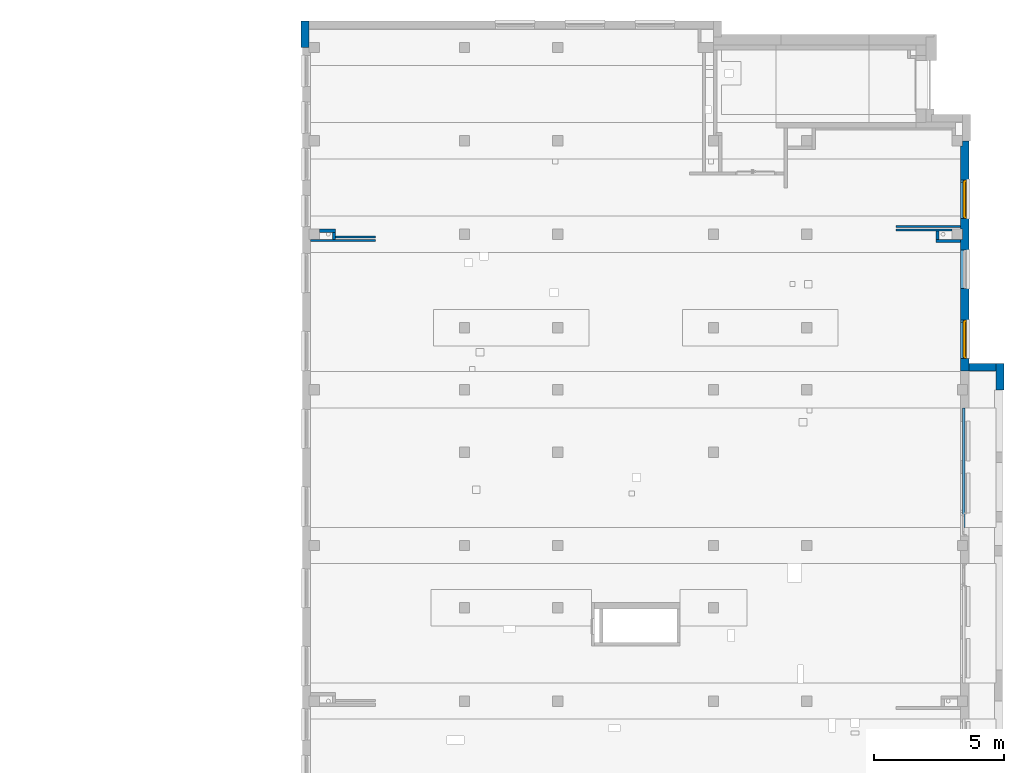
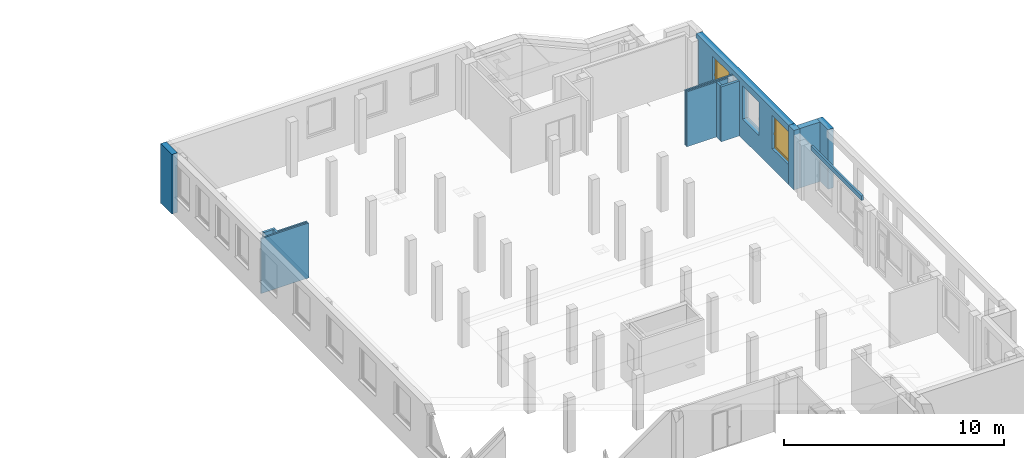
# One storey, part 9 of 27: 14 walls, 2 windows, 3 openings.
"""IFC4 building model written with IfcOpenShell, lengths in metres."""

from ifc_helpers import new_model, entity, si_unit, converted_unit, derived_unit, frame, frame_2d, origin, origin_with_axes, place, context, subcontext, project, spatial, polyline, rectangle, outline, extrude, clip, bounded_halfspace, closed_shell, open_shell, surface_model, source, transform, mapped, material, layer, layer_set, layer_usage, element, fill, save


model = new_model("IFC4")

# Units and contexts
model_context = context("Model", 3, precision=1e-05, world=origin())
body_context = subcontext(model_context, "Body", "Model", "MODEL_VIEW")
ifc_project = project(units=[si_unit("LENGTHUNIT", "METRE"), si_unit("AREAUNIT", "SQUARE_METRE"), si_unit("VOLUMEUNIT", "CUBIC_METRE"), si_unit("MASSUNIT", "GRAM", prefix="KILO"), converted_unit("PLANEANGLEUNIT", "DEGREE", entity("IfcPlaneAngleMeasure", 0.0174532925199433), si_unit("PLANEANGLEUNIT", "RADIAN"), dimensions=[0, 0, 0, 0, 0, 0, 0]), derived_unit("THERMALTRANSMITTANCEUNIT", [(si_unit("POWERUNIT", "WATT"), 1), (si_unit("THERMODYNAMICTEMPERATUREUNIT", "KELVIN"), -1), (si_unit("LENGTHUNIT", "METRE"), -2)]), derived_unit("VOLUMETRICFLOWRATEUNIT", [(si_unit("LENGTHUNIT", "METRE"), 3), (converted_unit("TIMEUNIT", "hour", entity("IfcTimeMeasure", 3600.0), si_unit("TIMEUNIT", "SECOND"), dimensions=[0, 0, 1, 0, 0, 0, 0]), -1), (si_unit("LENGTHUNIT", "METRE"), -1)])], contexts=[model_context])

# Site, building, storey
site_placement = place(None, origin())
site = spatial("IfcSite", under=ifc_project, at=site_placement, Name="3. ASŘ", CompositionType="ELEMENT")
building_placement = place(site_placement, origin())
building = spatial("IfcBuilding", under=site, at=building_placement, Name="Pavilon C", CompositionType="ELEMENT")
storey_placement = place(building_placement, frame((0.0, 0.0, 10.5)))
storey = spatial("IfcBuildingStorey", under=building, at=storey_placement, Name="Půdorys 4.NP", CompositionType="ELEMENT", Elevation=10.5)

# Wall, openings, windows
ifc_material_1 = material(Name="ZELEZOBETONOVÁ KCE")
ifc_layer_1 = layer(ifc_material_1, 0.32)
ifc_layer_set_1 = layer_set([ifc_layer_1])
ifc_layer_usage_1 = layer_usage(ifc_layer_set_1, "AXIS2", "POSITIVE", 0.0)
wall_1_placement = place(storey_placement, frame((50.2, 20.4, -0.1), z_axis=(0.0, 0.0, 1.0), x_axis=(0.0, 1.0, 0.0)))
wall_1 = element("IfcWall", 1, at=wall_1_placement, inside=storey, material=ifc_layer_usage_1, Name="ZELEZOBETONOVÁ KCE", context=body_context, shape_type="Clipping", body=[
    clip(clip(extrude(rectangle(XDim=8.4, YDim=0.32, at=frame_2d((4.2, 0.16), x_axis=(1.0, 0.0))), origin_with_axes(), (0.0, 0.0, 1.0), 3.3), bounded_halfspace(frame((8.3, 0.285, 3.05), z_axis=(0.0, 0.0, 1.0), x_axis=(0.0, 1.0, 0.0)), True, origin_with_axes(), polyline([(8.4, 0.25), (8.4, 0.32), (8.2, 0.32), (8.2, 0.25), (8.4, 0.25)]))), bounded_halfspace(frame((4.80000000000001, 0.285, 3.05), z_axis=(0.0, 0.0, 1.0), x_axis=(0.0, 1.0, 0.0)), True, origin_with_axes(), polyline([(5.00000000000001, 0.25), (5.00000000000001, 0.32), (4.60000000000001, 0.32), (4.60000000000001, 0.25), (5.00000000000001, 0.25)]))),
])
opening_1_placement = place(wall_1_placement, frame((0.0, 0.0, 1.1), z_axis=(0.0, 1.0, 0.0), x_axis=(0.0, 0.0, 1.0)))
opening_1 = element("IfcOpeningElement", 2, at=opening_1_placement, cuts=wall_1, Name="Okenní otvor", ObjectType="Opening", context=body_context, shape_type="SweptSolid", body=[
    extrude(outline(polyline([(0.0, 1.5), (1.85, 1.5), (1.85, 0.0), (0.0, 0.0), (0.0, 1.5)])), origin_with_axes(), (0.0, 0.0, 1.0), 0.32),
])
opening_2_placement = place(wall_1_placement, frame((2.69999999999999, 0.0, 1.1), z_axis=(0.0, 1.0, 0.0), x_axis=(0.0, 0.0, 1.0)))
element("IfcOpeningElement", 3, at=opening_2_placement, cuts=wall_1, Name="Okenní otvor", ObjectType="Opening", context=body_context, shape_type="SweptSolid", body=[
    extrude(outline(polyline([(0.0, 1.5), (1.85, 1.5), (1.85, 0.0), (0.0, 0.0), (0.0, 1.5)])), origin_with_axes(), (0.0, 0.0, 1.0), 0.32),
])
opening_3_placement = place(wall_1_placement, frame((5.39999999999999, 0.0, 1.1), z_axis=(0.0, 1.0, 0.0), x_axis=(0.0, 0.0, 1.0)))
opening_3 = element("IfcOpeningElement", 4, at=opening_3_placement, cuts=wall_1, Name="Okenní otvor", ObjectType="Opening", context=body_context, shape_type="SweptSolid", body=[
    extrude(outline(polyline([(0.0, 1.5), (1.85, 1.5), (1.85, 0.0), (0.0, 0.0), (0.0, 1.5)])), origin_with_axes(), (0.0, 0.0, 1.0), 0.32),
])
shared_shape = source(origin_with_axes(), body_context, "Body", "SurfaceModel", [
    surface_model("IfcShellBasedSurfaceModel", [(0.0, 0.182, 1.85), (0.0, 0.182, -5.63337527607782e-18), (0.08, 0.182, -5.63337527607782e-18), (0.08, 0.182, 1.85), (0.0, 0.0899999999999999, 5.63337527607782e-18), (0.0, 0.0900000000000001, 1.85), (0.08, 0.0900000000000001, 1.85), (0.08, 0.0899999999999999, 5.63337527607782e-18)], [closed_shell([[[0, 1, 2, 3]], [[4, 5, 6, 7]], [[1, 0, 5, 4]], [[2, 1, 4, 7]], [[3, 2, 7, 6]], [[0, 3, 6, 5]]], orient=[[False], [False], [False], [False], [False], [False]])]),
    surface_model("IfcShellBasedSurfaceModel", [(1.42, 0.182, 1.85), (1.42, 0.182, -5.63337527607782e-18), (1.5, 0.182, -5.63337527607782e-18), (1.5, 0.182, 1.85), (1.42, 0.0899999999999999, 5.63337527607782e-18), (1.42, 0.0900000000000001, 1.85), (1.5, 0.0900000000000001, 1.85), (1.5, 0.0899999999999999, 5.63337527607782e-18)], [closed_shell([[[0, 1, 2, 3]], [[4, 5, 6, 7]], [[1, 0, 5, 4]], [[2, 1, 4, 7]], [[3, 2, 7, 6]], [[0, 3, 6, 5]]], orient=[[False], [False], [False], [False], [False], [False]])]),
    surface_model("IfcShellBasedSurfaceModel", [(0.08, 0.182, 0.08), (0.08, 0.182, -5.63337527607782e-18), (1.42, 0.182, -5.63337527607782e-18), (1.42, 0.182, 0.08), (0.08, 0.0899999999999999, 5.63337527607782e-18), (0.08, 0.0899999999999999, 0.08), (1.42, 0.0899999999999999, 0.08), (1.42, 0.0899999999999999, 5.63337527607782e-18)], [closed_shell([[[0, 1, 2, 3]], [[4, 5, 6, 7]], [[1, 0, 5, 4]], [[2, 1, 4, 7]], [[3, 2, 7, 6]], [[0, 3, 6, 5]]], orient=[[False], [False], [False], [False], [False], [False]])]),
    surface_model("IfcShellBasedSurfaceModel", [(0.08, 0.182, 1.85), (0.08, 0.182, 1.77), (1.42, 0.182, 1.77), (1.42, 0.182, 1.85), (0.08, 0.0900000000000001, 1.77), (0.08, 0.0900000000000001, 1.85), (1.42, 0.0900000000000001, 1.85), (1.42, 0.0900000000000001, 1.77)], [closed_shell([[[0, 1, 2, 3]], [[4, 5, 6, 7]], [[1, 0, 5, 4]], [[2, 1, 4, 7]], [[3, 2, 7, 6]], [[0, 3, 6, 5]]], orient=[[False], [False], [False], [False], [False], [False]])]),
    surface_model("IfcShellBasedSurfaceModel", [(0.05, 0.145, 1.8), (0.05, 0.145, 0.05), (0.13, 0.145, 0.05), (0.13, 0.145, 1.8), (0.05, 0.0599999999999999, 0.05), (0.05, 0.0600000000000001, 1.8), (0.13, 0.0600000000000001, 1.8), (0.13, 0.0599999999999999, 0.05)], [closed_shell([[[0, 1, 2, 3]], [[4, 5, 6, 7]], [[1, 0, 5, 4]], [[2, 1, 4, 7]], [[3, 2, 7, 6]], [[0, 3, 6, 5]]], orient=[[False], [False], [False], [False], [False], [False]])]),
    surface_model("IfcShellBasedSurfaceModel", [(1.37, 0.145, 1.8), (1.37, 0.145, 0.05), (1.45, 0.145, 0.05), (1.45, 0.145, 1.8), (1.37, 0.0599999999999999, 0.05), (1.37, 0.0600000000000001, 1.8), (1.45, 0.0600000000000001, 1.8), (1.45, 0.0599999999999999, 0.05)], [closed_shell([[[0, 1, 2, 3]], [[4, 5, 6, 7]], [[1, 0, 5, 4]], [[2, 1, 4, 7]], [[3, 2, 7, 6]], [[0, 3, 6, 5]]], orient=[[False], [False], [False], [False], [False], [False]])]),
    surface_model("IfcShellBasedSurfaceModel", [(0.13, 0.145, 0.13), (0.13, 0.145, 0.05), (1.37, 0.145, 0.05), (1.37, 0.145, 0.13), (0.13, 0.0599999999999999, 0.05), (0.13, 0.0599999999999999, 0.13), (1.37, 0.0599999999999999, 0.13), (1.37, 0.0599999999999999, 0.05)], [closed_shell([[[0, 1, 2, 3]], [[4, 5, 6, 7]], [[1, 0, 5, 4]], [[2, 1, 4, 7]], [[3, 2, 7, 6]], [[0, 3, 6, 5]]], orient=[[False], [False], [False], [False], [False], [False]])]),
    surface_model("IfcShellBasedSurfaceModel", [(0.13, 0.145, 1.8), (0.13, 0.145, 1.72), (1.37, 0.145, 1.72), (1.37, 0.145, 1.8), (0.13, 0.0600000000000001, 1.72), (0.13, 0.0600000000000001, 1.8), (1.37, 0.0600000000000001, 1.8), (1.37, 0.0600000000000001, 1.72)], [closed_shell([[[0, 1, 2, 3]], [[4, 5, 6, 7]], [[1, 0, 5, 4]], [[2, 1, 4, 7]], [[3, 2, 7, 6]], [[0, 3, 6, 5]]], orient=[[False], [False], [False], [False], [False], [False]])]),
    surface_model("IfcShellBasedSurfaceModel", [(0.0775, 0.06, 0.945), (0.0775, 0.06, 0.905), (0.1025, 0.06, 0.905), (0.1025, 0.06, 0.945), (0.0775, 0.05, 0.905), (0.0775, 0.05, 0.945), (0.1025, 0.05, 0.945), (0.1025, 0.05, 0.905)], [closed_shell([[[0, 1, 2, 3]], [[4, 5, 6, 7]], [[1, 0, 5, 4]], [[2, 1, 4, 7]], [[3, 2, 7, 6]], [[0, 3, 6, 5]]], orient=[[False], [False], [False], [False], [False], [False]])]),
    surface_model("IfcShellBasedSurfaceModel", [(0.1, 0.05, 0.925), (0.0986602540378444, 0.05, 0.93), (0.095, 0.05, 0.933660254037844), (0.09, 0.05, 0.935), (0.085, 0.05, 0.933660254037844), (0.0813397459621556, 0.05, 0.93), (0.08, 0.05, 0.925), (0.0813397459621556, 0.05, 0.92), (0.085, 0.05, 0.916339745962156), (0.09, 0.05, 0.915), (0.095, 0.05, 0.916339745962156), (0.0986602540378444, 0.05, 0.92), (0.1, 0.01, 0.925), (0.0986602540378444, 0.00500000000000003, 0.93), (0.095, 0.00133974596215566, 0.933660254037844), (0.09, 2.8421709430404e-17, 0.935), (0.085, 0.00133974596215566, 0.933660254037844), (0.0813397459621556, 0.00500000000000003, 0.93), (0.08, 0.01, 0.925), (0.0813397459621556, 0.015, 0.92), (0.085, 0.0186602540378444, 0.916339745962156), (0.09, 0.02, 0.915), (0.095, 0.0186602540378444, 0.916339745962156), (0.0986602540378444, 0.015, 0.92), (0.1, 0.01, 0.81), (0.0986602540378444, 0.005, 0.81), (0.095, 0.00133974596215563, 0.81), (0.09, 0.0, 0.81), (0.085, 0.00133974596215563, 0.81), (0.0813397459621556, 0.005, 0.81), (0.08, 0.01, 0.81), (0.0813397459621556, 0.015, 0.81), (0.085, 0.0186602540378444, 0.81), (0.09, 0.02, 0.81), (0.095, 0.0186602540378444, 0.81), (0.0986602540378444, 0.015, 0.81)], [open_shell([[[0, 1, 2, 3, 4, 5, 6, 7, 8, 9, 10, 11]], [[0, 12, 13, 1]], [[1, 13, 14, 2]], [[2, 14, 15, 3]], [[3, 15, 16, 4]], [[4, 16, 17, 5]], [[5, 17, 18, 6]], [[6, 18, 19, 7]], [[7, 19, 20, 8]], [[8, 20, 21, 9]], [[9, 21, 22, 10]], [[10, 22, 23, 11]], [[11, 23, 12, 0]], [[12, 24, 25, 13]], [[13, 25, 26, 14]], [[14, 26, 27, 15]], [[15, 27, 28, 16]], [[16, 28, 29, 17]], [[17, 29, 30, 18]], [[18, 30, 31, 19]], [[19, 31, 32, 20]], [[20, 32, 33, 21]], [[21, 33, 34, 22]], [[22, 34, 35, 23]], [[23, 35, 24, 12]]], orient=[[False], [False], [False], [False], [False], [False], [False], [False], [False], [False], [False], [False], [False], [False], [False], [False], [False], [False], [False], [False], [False], [False], [False], [False], [False]])]),
    surface_model("IfcShellBasedSurfaceModel", [(0.13, 0.1025, 0.13), (1.37, 0.1025, 0.13), (1.37, 0.1025, 1.72), (0.13, 0.1025, 1.72)], [open_shell([[[0, 1, 2, 3]]], orient=[[False]])]),
])
window_1_placement = place(opening_1_placement, frame((0.0, 1.49999999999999, 0.282000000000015), z_axis=(1.0, 0.0, 0.0), x_axis=(0.0, -1.0, 2.44929359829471e-16)))
window_1 = element("IfcWindow", 5, at=window_1_placement, inside=storey, Name="O06", OverallHeight=1.85, OverallWidth=1.5, PartitioningType="USERDEFINED", PredefinedType="WINDOW", context=body_context, shape_type="MappedRepresentation", body=[
    mapped(shared_shape, transform((0.0, 0.0, 0.0), x_axis=(1.0, 0.0, 0.0), y_axis=(0.0, 1.0, 0.0), z_axis=(0.0, 0.0, 1.0), scale=1.0)),
])
fill(opening_1, window_1)
window_2_placement = place(opening_3_placement, frame((0.0, 1.49999999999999, 0.282000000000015), z_axis=(1.0, 0.0, 0.0), x_axis=(0.0, -1.0, 2.44929359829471e-16)))
window_2 = element("IfcWindow", 6, at=window_2_placement, inside=storey, Name="O06", OverallHeight=1.85, OverallWidth=1.5, PartitioningType="USERDEFINED", PredefinedType="WINDOW", context=body_context, shape_type="MappedRepresentation", body=[
    mapped(shared_shape, transform((0.0, 0.0, 0.0), x_axis=(1.0, 0.0, 0.0), y_axis=(0.0, 1.0, 0.0), z_axis=(0.0, 0.0, 1.0), scale=1.0)),
])
fill(opening_3, window_2)

# Walls
ifc_material_2 = material(Name="ZELEZOBETONOVÁ KCE")
ifc_layer_2 = layer(ifc_material_2, 0.3)
ifc_layer_set_2 = layer_set([ifc_layer_2])
ifc_layer_usage_2 = layer_usage(ifc_layer_set_2, "AXIS2", "POSITIVE", 0.0)
wall_2_placement = place(storey_placement, frame((24.75, 32.4, -0.1), z_axis=(0.0, 0.0, 1.0), x_axis=(0.0, 1.0, 0.0)))
element("IfcWall", 7, at=wall_2_placement, inside=storey, material=ifc_layer_usage_2, Name="ZELEZOBETONOVÁ KCE", context=body_context, shape_type="SweptSolid", body=[
    extrude(rectangle(XDim=1.02, YDim=0.3, at=frame_2d((0.51, 0.15), x_axis=(1.0, 0.0))), origin_with_axes(), (0.0, 0.0, 1.0), 3.3),
])
ifc_material_3 = material(Name="PLYNOSILIKÁT")
ifc_layer_3 = layer(ifc_material_3, 0.32)
ifc_layer_set_3 = layer_set([ifc_layer_3])
ifc_layer_usage_3 = layer_usage(ifc_layer_set_3, "AXIS2", "POSITIVE", 0.0)
wall_3_placement = place(storey_placement, frame((50.2, 19.92, -0.1), z_axis=(0.0, 0.0, 1.0), x_axis=(0.0, 1.0, 0.0)))
element("IfcWall", 8, at=wall_3_placement, inside=storey, material=ifc_layer_usage_3, Name="PLYNOSILIKÁT", context=body_context, shape_type="SweptSolid", body=[
    extrude(rectangle(XDim=0.480000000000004, YDim=0.32, at=frame_2d((0.240000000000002, 0.16), x_axis=(1.0, 0.0))), origin_with_axes(), (0.0, 0.0, 1.0), 3.3),
])
ifc_material_4 = material(Name="ZELEZOBETONOVÁ KCE")
ifc_layer_4 = layer(ifc_material_4, 0.3)
ifc_layer_set_4 = layer_set([ifc_layer_4])
ifc_layer_usage_4 = layer_usage(ifc_layer_set_4, "AXIS2", "POSITIVE", 0.0)
wall_4_placement = place(storey_placement, frame((51.25, 20.22, -0.1), z_axis=(0.0, 0.0, 1.0), x_axis=(-1.0, 0.0, 0.0)))
element("IfcWall", 9, at=wall_4_placement, inside=storey, material=ifc_layer_usage_4, Name="ZELEZOBETONOVÁ KCE", context=body_context, shape_type="SweptSolid", body=[
    extrude(rectangle(XDim=1.05, YDim=0.3, at=frame_2d((0.525, 0.15), x_axis=(1.0, 0.0))), origin_with_axes(), (0.0, 0.0, 1.0), 3.3),
])
ifc_material_5 = material(Name="ZELEZOBETONOVÁ KCE")
ifc_layer_5 = layer(ifc_material_5, 0.3)
ifc_layer_set_5 = layer_set([ifc_layer_5])
ifc_layer_usage_5 = layer_usage(ifc_layer_set_5, "AXIS2", "POSITIVE", 0.0)
wall_5_placement = place(storey_placement, frame((51.55, 19.2, -0.1), z_axis=(0.0, 0.0, 1.0), x_axis=(0.0, 1.0, 0.0)))
element("IfcWall", 10, at=wall_5_placement, inside=storey, material=ifc_layer_usage_5, Name="ZELEZOBETONOVÁ KCE", context=body_context, shape_type="SweptSolid", body=[
    extrude(rectangle(XDim=1.02, YDim=0.3, at=frame_2d((0.509999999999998, 0.15), x_axis=(1.0, 0.0))), origin_with_axes(), (0.0, 0.0, 1.0), 3.3),
])
ifc_material_6 = material(Name="ZDIVO Z CDm")
ifc_layer_6 = layer(ifc_material_6, 0.125)
ifc_layer_set_6 = layer_set([ifc_layer_6])
ifc_layer_usage_6 = layer_usage(ifc_layer_set_6, "AXIS2", "POSITIVE", 0.0)
wall_6_placement = place(storey_placement, frame((49.88, 25.0, -0.1), z_axis=(0.0, 0.0, 1.0), x_axis=(-1.0, 0.0, 0.0)))
element("IfcWall", 11, at=wall_6_placement, inside=storey, material=ifc_layer_usage_6, Name="ZDIVO Z CDm", context=body_context, shape_type="SweptSolid", body=[
    extrude(rectangle(XDim=0.955, YDim=0.125, at=frame_2d((0.4775, 0.0625), x_axis=(1.0, 0.0))), origin_with_axes(), (0.0, 0.0, 1.0), 3.05),
])
ifc_material_7 = material(Name="ZDIVO Z CDm")
ifc_layer_7 = layer(ifc_material_7, 0.125)
ifc_layer_set_7 = layer_set([ifc_layer_7])
ifc_layer_usage_7 = layer_usage(ifc_layer_set_7, "AXIS2", "POSITIVE", 0.0)
wall_7_placement = place(storey_placement, frame((49.05, 25.0, -0.1), z_axis=(0.0, 0.0, 1.0), x_axis=(0.0, 1.0, 0.0)))
element("IfcWall", 12, at=wall_7_placement, inside=storey, material=ifc_layer_usage_7, Name="ZDIVO Z CDm", context=body_context, shape_type="SweptSolid", body=[
    extrude(rectangle(XDim=0.32, YDim=0.125, at=frame_2d((0.16, 0.0625), x_axis=(1.0, 0.0))), origin_with_axes(), (0.0, 0.0, 1.0), 3.05),
])
ifc_material_8 = material(Name="ZDIVO Z CDm")
ifc_layer_8 = layer(ifc_material_8, 0.125)
ifc_layer_set_8 = layer_set([ifc_layer_8])
ifc_layer_usage_8 = layer_usage(ifc_layer_set_8, "AXIS2", "POSITIVE", 0.0)
wall_8_placement = place(storey_placement, frame((25.15, 25.275, -0.1)))
element("IfcWall", 13, at=wall_8_placement, inside=storey, material=ifc_layer_usage_8, Name="ZDIVO Z CDm", context=body_context, shape_type="SweptSolid", body=[
    extrude(rectangle(XDim=0.625, YDim=0.125, at=frame_2d((0.3125, 0.0625), x_axis=(1.0, 0.0))), origin_with_axes(), (0.0, 0.0, 1.0), 3.05),
])
ifc_material_9 = material(Name="ZDIVO Z CDm")
ifc_layer_9 = layer(ifc_material_9, 0.125)
ifc_layer_set_9 = layer_set([ifc_layer_9])
ifc_layer_usage_9 = layer_usage(ifc_layer_set_9, "AXIS2", "POSITIVE", 0.0)
wall_9_placement = place(storey_placement, frame((25.65, 25.275, -0.1), z_axis=(0.0, 0.0, 1.0), x_axis=(0.0, -1.0, 0.0)))
element("IfcWall", 14, at=wall_9_placement, inside=storey, material=ifc_layer_usage_9, Name="ZDIVO Z CDm", context=body_context, shape_type="SweptSolid", body=[
    extrude(rectangle(XDim=0.275, YDim=0.125, at=frame_2d((0.1375, 0.0625), x_axis=(1.0, 0.0))), origin_with_axes(), (0.0, 0.0, 1.0), 3.05),
])
ifc_material_10 = material(Name="PÓROBETONOVÉ ZDIVO")
ifc_layer_10 = layer(ifc_material_10, 0.08)
ifc_layer_set_10 = layer_set([ifc_layer_10])
ifc_layer_usage_10 = layer_usage(ifc_layer_set_10, "AXIS2", "POSITIVE", 0.0)
wall_10_placement = place(storey_placement, frame((25.775, 25.05, -0.1)))
element("IfcWall", 15, at=wall_10_placement, inside=storey, material=ifc_layer_usage_10, Name="PÓROBETONOVÉ ZDIVO", context=body_context, shape_type="SweptSolid", body=[
    extrude(rectangle(XDim=1.54499999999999, YDim=0.08, at=frame_2d((0.772499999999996, 0.04), x_axis=(1.0, 0.0))), origin_with_axes(), (0.0, 0.0, 1.0), 3.05),
])
ifc_material_11 = material(Name="PÓROBETONOVÉ ZDIVO")
ifc_layer_11 = layer(ifc_material_11, 0.08)
ifc_layer_set_11 = layer_set([ifc_layer_11])
ifc_layer_usage_11 = layer_usage(ifc_layer_set_11, "AXIS2", "POSITIVE", 0.0)
wall_11_placement = place(storey_placement, frame((27.32, 25.0, -0.1), z_axis=(0.0, 0.0, 1.0), x_axis=(-1.0, 0.0, 0.0)))
element("IfcWall", 16, at=wall_11_placement, inside=storey, material=ifc_layer_usage_11, Name="PÓROBETONOVÉ ZDIVO", context=body_context, shape_type="SweptSolid", body=[
    extrude(rectangle(XDim=2.5, YDim=0.08, at=frame_2d((1.25, 0.04), x_axis=(1.0, 0.0))), origin_with_axes(), (0.0, 0.0, 1.0), 3.05),
])
ifc_material_12 = material(Name="PÓROBETONOVÉ ZDIVO")
ifc_layer_12 = layer(ifc_material_12, 0.08)
ifc_layer_set_12 = layer_set([ifc_layer_12])
ifc_layer_usage_12 = layer_usage(ifc_layer_set_12, "AXIS2", "POSITIVE", 0.0)
wall_12_placement = place(storey_placement, frame((49.55, 25.4, -0.1), z_axis=(0.0, 0.0, 1.0), x_axis=(-1.0, 0.0, 0.0)))
element("IfcWall", 17, at=wall_12_placement, inside=storey, material=ifc_layer_usage_12, Name="PÓROBETONOVÉ ZDIVO", context=body_context, shape_type="SweptSolid", body=[
    extrude(rectangle(XDim=2.17, YDim=0.08, at=frame_2d((1.085, 0.04), x_axis=(1.0, 0.0))), origin_with_axes(), (0.0, 0.0, 1.0), 3.05),
])
ifc_material_13 = material(Name="PÓROBETONOVÉ ZDIVO")
ifc_layer_13 = layer(ifc_material_13, 0.08)
ifc_layer_set_13 = layer_set([ifc_layer_13])
ifc_layer_usage_13 = layer_usage(ifc_layer_set_13, "AXIS2", "POSITIVE", 0.0)
wall_13_placement = place(storey_placement, frame((47.38, 25.45, -0.1)))
element("IfcWall", 18, at=wall_13_placement, inside=storey, material=ifc_layer_usage_13, Name="PÓROBETONOVÉ ZDIVO", context=body_context, shape_type="SweptSolid", body=[
    extrude(rectangle(XDim=2.5, YDim=0.08, at=frame_2d((1.25, 0.04), x_axis=(1.0, 0.0))), origin_with_axes(), (0.0, 0.0, 1.0), 3.05),
])
ifc_material_14 = material(Name="EPS")
ifc_layer_14 = layer(ifc_material_14, 0.1)
ifc_layer_set_14 = layer_set([ifc_layer_14])
ifc_layer_usage_14 = layer_usage(ifc_layer_set_14, "AXIS2", "POSITIVE", 0.0)
wall_14_placement = place(storey_placement, frame((49.95, 18.5, 2.95), z_axis=(0.0, 0.0, 1.0), x_axis=(0.0, -1.0, 0.0)))
element("IfcWall", 19, at=wall_14_placement, inside=storey, material=ifc_layer_usage_14, Name="EPS", context=body_context, shape_type="SweptSolid", body=[
    extrude(rectangle(XDim=4.6, YDim=0.1, at=frame_2d((2.3, 0.05), x_axis=(1.0, 0.0))), origin_with_axes(), (0.0, 0.0, 1.0), 0.25),
])

save(model, "model.ifc")
